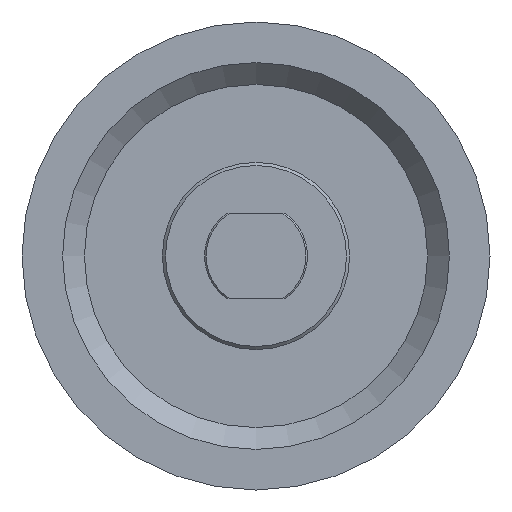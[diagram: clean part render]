
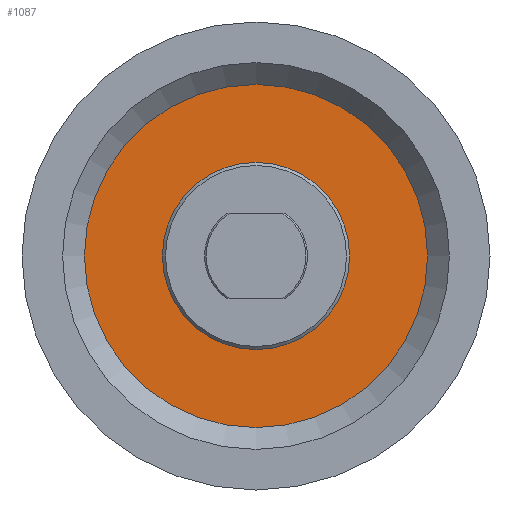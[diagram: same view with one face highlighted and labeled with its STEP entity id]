
A CAD part, left-side view. The second image highlights one B-rep face of the part: STEP entity #1087.
In plain terms, the highlighted planar face has unit normal (-1, 0, 0).
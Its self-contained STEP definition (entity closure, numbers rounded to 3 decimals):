
#89=FACE_BOUND('',#341,.T.);
#102=PLANE('',#1342);
#272=FACE_OUTER_BOUND('',#340,.T.);
#340=EDGE_LOOP('',(#835,#836));
#341=EDGE_LOOP('',(#837,#838));
#440=CIRCLE('',#1339,30.);
#441=CIRCLE('',#1340,30.);
#442=CIRCLE('',#1343,55.);
#443=CIRCLE('',#1344,55.);
#524=VERTEX_POINT('',#1929);
#525=VERTEX_POINT('',#1930);
#526=VERTEX_POINT('',#1937);
#527=VERTEX_POINT('',#1938);
#640=EDGE_CURVE('',#524,#525,#440,.T.);
#641=EDGE_CURVE('',#525,#524,#441,.T.);
#644=EDGE_CURVE('',#526,#527,#442,.T.);
#645=EDGE_CURVE('',#527,#526,#443,.T.);
#835=ORIENTED_EDGE('',*,*,#644,.F.);
#836=ORIENTED_EDGE('',*,*,#645,.F.);
#837=ORIENTED_EDGE('',*,*,#640,.T.);
#838=ORIENTED_EDGE('',*,*,#641,.T.);
#1087=ADVANCED_FACE('',(#272,#89),#102,.T.);
#1339=AXIS2_PLACEMENT_3D('',#1931,#1564,#1565);
#1340=AXIS2_PLACEMENT_3D('',#1932,#1566,#1567);
#1342=AXIS2_PLACEMENT_3D('',#1936,#1572,#1573);
#1343=AXIS2_PLACEMENT_3D('',#1939,#1574,#1575);
#1344=AXIS2_PLACEMENT_3D('',#1940,#1576,#1577);
#1564=DIRECTION('center_axis',(1.,0.,0.));
#1565=DIRECTION('ref_axis',(0.,0.,-1.));
#1566=DIRECTION('center_axis',(1.,0.,0.));
#1567=DIRECTION('ref_axis',(0.,0.,-1.));
#1572=DIRECTION('center_axis',(-1.,0.,0.));
#1573=DIRECTION('ref_axis',(0.,0.,1.));
#1574=DIRECTION('center_axis',(1.,0.,0.));
#1575=DIRECTION('ref_axis',(0.,0.,-1.));
#1576=DIRECTION('center_axis',(1.,0.,0.));
#1577=DIRECTION('ref_axis',(0.,0.,-1.));
#1929=CARTESIAN_POINT('',(-4.,30.,0.));
#1930=CARTESIAN_POINT('',(-4.,-30.,0.));
#1931=CARTESIAN_POINT('Origin',(-4.,0.,0.));
#1932=CARTESIAN_POINT('Origin',(-4.,0.,0.));
#1936=CARTESIAN_POINT('Origin',(-4.,55.,0.));
#1937=CARTESIAN_POINT('',(-4.,55.,0.));
#1938=CARTESIAN_POINT('',(-4.,-55.,0.));
#1939=CARTESIAN_POINT('Origin',(-4.,0.,0.));
#1940=CARTESIAN_POINT('Origin',(-4.,0.,0.));
